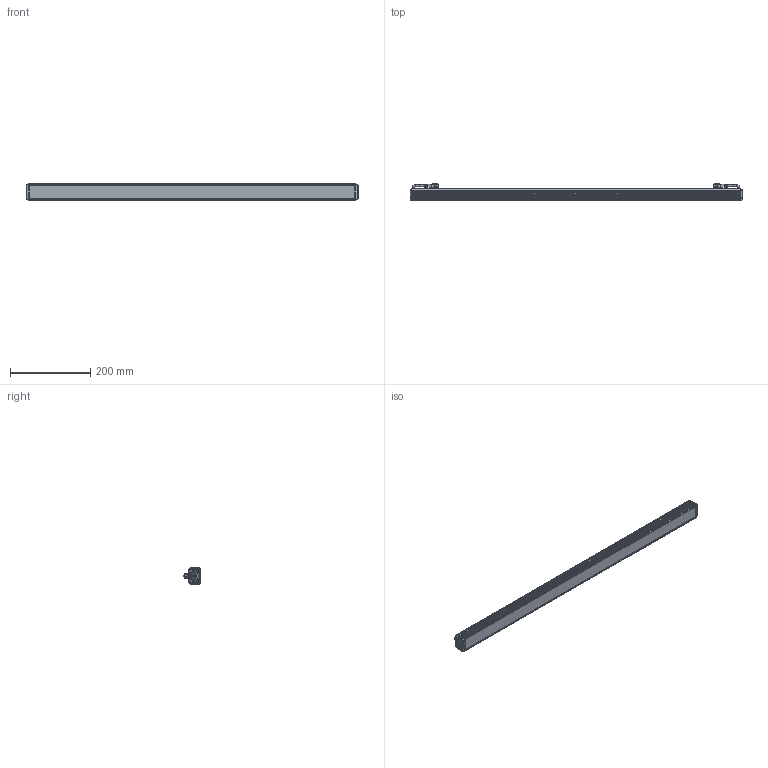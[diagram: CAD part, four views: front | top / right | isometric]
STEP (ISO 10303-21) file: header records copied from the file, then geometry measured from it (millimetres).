
FILE_DESCRIPTION((''),'2;1');
FILE_NAME('PRT0001','2023-02-22T16:51:15',('huguozhe'),(''),'CREO PARAMETRIC BY PTC INC, 2020044','CREO PARAMETRIC BY PTC INC, 2020044','');
FILE_SCHEMA(('AUTOMOTIVE_DESIGN { 1 0 10303 214 1 1 1 1 }'));
Products named in the file (1): PRT0001
Bounding box: 828 x 42.65 x 40 mm (x, y, z)
Volume: 441612.1 mm3; surface area: 367245.6 mm2
Topology: 3 solids, 55 shells, 2365 faces, 6432 edges, 4096 vertices
Faces by surface type: plane 1412, cylinder 393, cone 326, extrusion 148, torus 54, bspline 16, sphere 16
Entity records: 88131 total; most frequent: CARTESIAN_POINT 19440, ORIENTED_EDGE 12636, DIRECTION 11618, EDGE_CURVE 6388, VECTOR 4258, LINE 4110, VERTEX_POINT 4096, AXIS2_PLACEMENT_3D 3680
